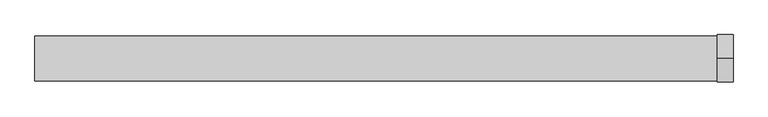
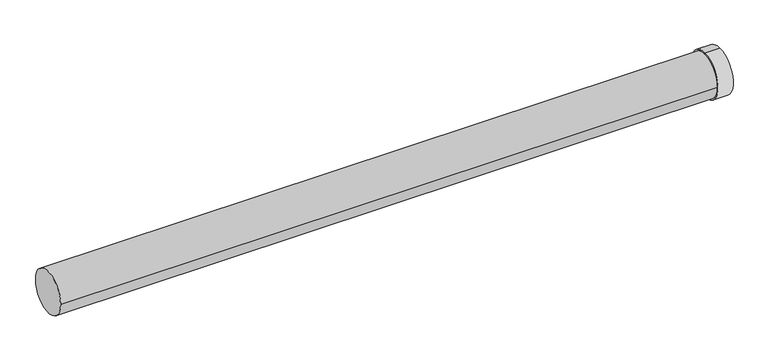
"""IFC4 building model written with IfcOpenShell, lengths in millimetres: duct fitting geometry, RSFen_DUF_UN_Twinline Extension_M&G : ø130-150-200."""

from ifc_helpers import new_model, si_unit, point, frame, origin, origin_2d, place, context, project, spatial, polyline, circle_curve, trimmed, segment, composite_curve, outline, extrude, source, transform, mapped, element, save
from ifc_brep_helpers import plane_surface, cylinder_surface, revolved_surface, advanced_brep


def duct_fitting_d5854984(model_context):
    return source(origin(), model_context, "Body", "SolidModel", [
        advanced_brep(
        [(2000.0, 0.0, -68.5), (2000.0, 0.0, 68.5), (2000.0, 0.0, 65.5), (2000.0, 0.0, -65.5), (1955.0, 0.0, -68.5), (1955.0, 0.0, 68.5), (1960.0, 0.0, -65.5), (1960.0, 0.0, 65.5)],
        [
            (0, 1, circle_curve(frame((2000.0, 0.0, 0.0), z_axis=(1.0, 0.0, 0.0), x_axis=(0.0, 0.0, 1.0)), 68.5)),
            (1, 0, circle_curve(frame((2000.0, 0.0, 0.0), z_axis=(1.0, 0.0, 0.0), x_axis=(0.0, 0.0, 1.0)), 68.5)),
            (2, 3, circle_curve(frame((2000.0, 0.0, 0.0), z_axis=(-1.0, 0.0, 0.0), x_axis=(0.0, 0.0, 1.0)), 65.5)),
            (3, 2, circle_curve(frame((2000.0, 0.0, 0.0), z_axis=(-1.0, 0.0, 0.0), x_axis=(0.0, 0.0, 1.0)), 65.5)),
            (4, 5, circle_curve(frame((1955.0, 0.0, 0.0), z_axis=(-1.0, 0.0, 0.0), x_axis=(0.0, 0.0, 1.0)), 68.5)),
            (5, 4, circle_curve(frame((1955.0, 0.0, 0.0), z_axis=(-1.0, 0.0, 0.0), x_axis=(0.0, 0.0, 1.0)), 68.5)),
            (1, 5),
            (4, 0),
            (6, 7, circle_curve(frame((1960.0, 0.0, 0.0), z_axis=(1.0, 0.0, 0.0), x_axis=(0.0, 0.0, 1.0)), 65.5)),
            (7, 6, circle_curve(frame((1960.0, 0.0, 0.0), z_axis=(1.0, 0.0, 0.0), x_axis=(0.0, 0.0, 1.0)), 65.5)),
            (7, 2),
            (3, 6),
        ],
        [
            plane_surface(frame((2000.0, 0.0, 68.5), z_axis=(1.0, 0.0, 0.0), x_axis=(0.0, 1.0, 0.0))),
            plane_surface(frame((1955.0, 0.0, 68.5), z_axis=(-1.0, 0.0, 0.0), x_axis=(0.0, -1.0, 0.0))),
            cylinder_surface(frame((1955.0, 0.0, 0.0), z_axis=(1.0, 0.0, 0.0), x_axis=(0.0, 0.0, 1.0)), 68.5),
            plane_surface(frame((1960.0, 0.0, 65.5), z_axis=(1.0, 0.0, 0.0), x_axis=(0.0, -1.0, 0.0))),
            revolved_surface(polyline([(2000.0, 0.0, 65.5), (1960.0, 0.0, 65.5)]), (1960.0, 0.0, 0.0), (1.0, 0.0, 0.0)),
        ],
        [
            (0, [[1, 2], [3, 4]]),
            (1, [[5, 6]]),
            (2, [[7, -5, 8, -2]]),
            (2, [[-8, -6, -7, -1]]),
            (3, [[9, 10]]),
            (4, [[11, -4, 12, -10]]),
            (4, [[-12, -3, -11, -9]]),
        ],
    ),
        extrude(outline(composite_curve([segment(trimmed(circle_curve(origin_2d(), 65.0), [point((-65.0, 0.0))], [point((65.0, 0.0))], False, "CARTESIAN"), True, "CONTINUOUS"), segment(trimmed(circle_curve(origin_2d(), 65.0), [point((65.0, 0.0))], [point((-65.0, 0.0))], False, "CARTESIAN"), True, "CONTINUOUS")], self_intersect=False)), frame((-2.39e-05, 0.0, 0.0), z_axis=(1.0, 0.0, 0.0), x_axis=(0.0, 1.0, 0.0)), (0.0, 0.0, 1.0), 1960.0),
    ])


if __name__ == "__main__":
    model = new_model("IFC4")
    model_context = context("Model", 3, world=origin())
    ifc_project = project(units=[si_unit("LENGTHUNIT", "METRE", prefix="MILLI")], contexts=[model_context])
    site = spatial("IfcSite", under=ifc_project)
    building = spatial("IfcBuilding", under=site)
    placement = place(None, origin())
    duct_fitting_shape = duct_fitting_d5854984(model_context)
    element("IfcDuctFitting", 1, ObjectType="RSFen_DUF_UN_Twinline Extension_M&G : ø130-150-200", at=placement, inside=building, context=model_context, shape_type="MappedRepresentation", body=[
        mapped(duct_fitting_shape, transform((0.0, 0.0, 0.0), x_axis=(1.0, 0.0, 0.0), y_axis=(0.0, 1.0, 0.0), z_axis=(0.0, 0.0, 1.0))),
    ])
    save(model, "model.ifc")
